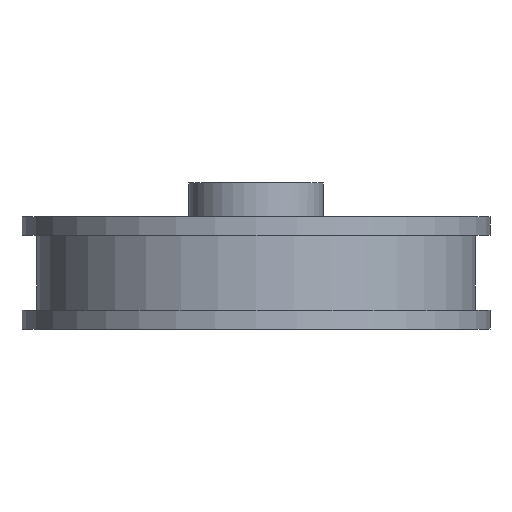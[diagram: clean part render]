
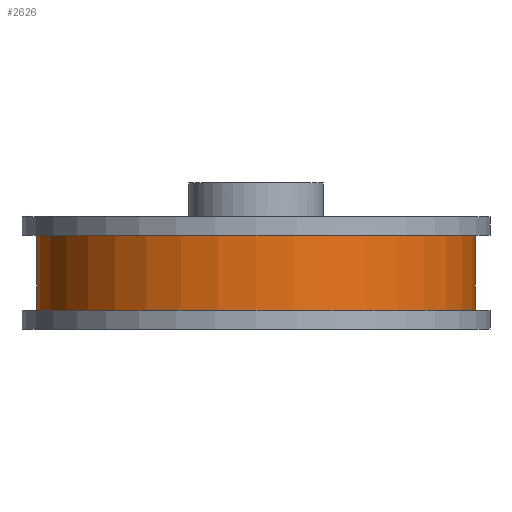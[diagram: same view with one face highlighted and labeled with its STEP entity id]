
A CAD part, front view. The second image highlights one B-rep face of the part: STEP entity #2626.
In plain terms, the highlighted cylindrical face has radius 29.25 mm (diameter 58.5 mm), a full revolution.
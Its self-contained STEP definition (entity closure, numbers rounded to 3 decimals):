
#216=LINE('',#6237,#369);
#369=VECTOR('',#3121,29.25);
#478=CIRCLE('',#2741,29.25);
#523=CIRCLE('',#2807,29.25);
#592=CYLINDRICAL_SURFACE('',#2806,29.25);
#678=FACE_OUTER_BOUND('',#837,.T.);
#837=EDGE_LOOP('',(#2052,#2053,#2054,#2055));
#1107=VERTEX_POINT('',#4518);
#1188=VERTEX_POINT('',#6236);
#1374=EDGE_CURVE('',#1107,#1107,#478,.T.);
#1514=EDGE_CURVE('',#1107,#1188,#216,.T.);
#1515=EDGE_CURVE('',#1188,#1188,#523,.T.);
#2052=ORIENTED_EDGE('',*,*,#1374,.F.);
#2053=ORIENTED_EDGE('',*,*,#1514,.T.);
#2054=ORIENTED_EDGE('',*,*,#1515,.F.);
#2055=ORIENTED_EDGE('',*,*,#1514,.F.);
#2626=ADVANCED_FACE('',(#678),#592,.T.);
#2741=AXIS2_PLACEMENT_3D('',#4519,#2948,#2949);
#2806=AXIS2_PLACEMENT_3D('',#6235,#3119,#3120);
#2807=AXIS2_PLACEMENT_3D('',#6238,#3122,#3123);
#2948=DIRECTION('center_axis',(0.,0.,-1.));
#2949=DIRECTION('ref_axis',(1.,0.,0.));
#3119=DIRECTION('center_axis',(0.,0.,-1.));
#3120=DIRECTION('ref_axis',(1.,0.,0.));
#3121=DIRECTION('',(0.,0.,1.));
#3122=DIRECTION('center_axis',(0.,0.,1.));
#3123=DIRECTION('ref_axis',(1.,0.,0.));
#4518=CARTESIAN_POINT('',(-29.25,0.,-10.));
#4519=CARTESIAN_POINT('Origin',(0.,0.,
-10.));
#6235=CARTESIAN_POINT('Origin',(0.,0.,
0.));
#6236=CARTESIAN_POINT('',(-29.25,0.,0.));
#6237=CARTESIAN_POINT('',(-29.25,0.,0.));
#6238=CARTESIAN_POINT('Origin',(0.,0.,
0.));
